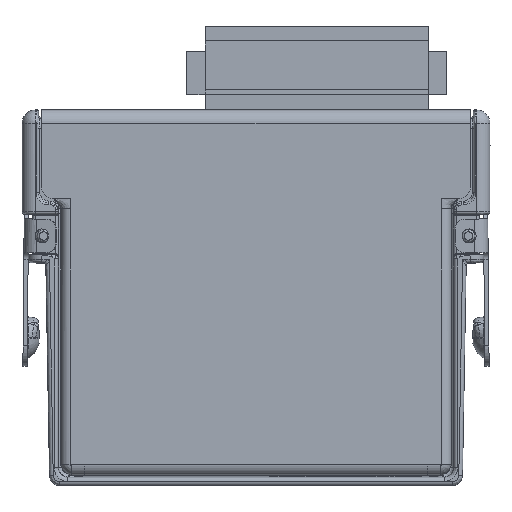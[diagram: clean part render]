
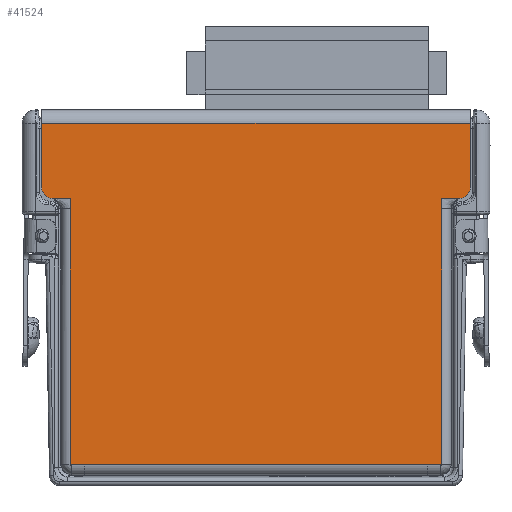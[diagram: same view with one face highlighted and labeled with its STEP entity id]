
A CAD part, left-side view. The second image highlights one B-rep face of the part: STEP entity #41524.
In plain terms, the highlighted planar face has unit normal (-1, 0, 0).
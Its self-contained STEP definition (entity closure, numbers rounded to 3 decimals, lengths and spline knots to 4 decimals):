
#40080=CARTESIAN_POINT('',(-0.4475,1.5095,2.209));
#40081=DIRECTION('',(-1.,0.,0.));
#40082=DIRECTION('',(0.,1.,0.));
#40083=AXIS2_PLACEMENT_3D('',#40080,#40081,#40082);
#40085=DIRECTION('',(0.,-1.,0.));
#40086=VECTOR('',#40085,0.133);
#40087=CARTESIAN_POINT('',(-0.4475,1.5095,2.129));
#40088=LINE('',#40087,#40086);
#40097=DIRECTION('',(0.,0.,-1.));
#40098=VECTOR('',#40097,0.476);
#40099=CARTESIAN_POINT('',(-0.4475,1.5895,2.685));
#40100=LINE('',#40099,#40098);
#40101=DIRECTION('',(0.,0.,1.));
#40102=VECTOR('',#40101,0.476);
#40103=CARTESIAN_POINT('',(-0.4475,-1.5895,2.209));
#40104=LINE('',#40103,#40102);
#40105=DIRECTION('',(0.,0.,1.));
#40106=VECTOR('',#40105,0.079);
#40107=CARTESIAN_POINT('',(-0.4475,-1.3765,2.05));
#40108=LINE('',#40107,#40106);
#40109=DIRECTION('',(0.,-1.,0.));
#40110=VECTOR('',#40109,0.105);
#40111=CARTESIAN_POINT('',(-0.4475,-1.2715,0.155));
#40112=LINE('',#40111,#40110);
#40113=DIRECTION('',(0.,-1.,0.));
#40114=VECTOR('',#40113,0.105);
#40115=CARTESIAN_POINT('',(-0.4475,1.3765,0.155));
#40116=LINE('',#40115,#40114);
#40117=DIRECTION('',(0.,0.,1.));
#40118=VECTOR('',#40117,0.079);
#40119=CARTESIAN_POINT('',(-0.4475,1.3765,2.05));
#40120=LINE('',#40119,#40118);
#40134=DIRECTION('',(0.,-1.,0.));
#40135=VECTOR('',#40134,3.179);
#40136=CARTESIAN_POINT('',(-0.4475,1.5895,2.685));
#40137=LINE('',#40136,#40135);
#40346=CARTESIAN_POINT('',(-0.4475,-1.5095,2.209));
#40347=DIRECTION('',(-1.,0.,0.));
#40348=DIRECTION('',(0.,0.,-1.));
#40349=AXIS2_PLACEMENT_3D('',#40346,#40347,#40348);
#40359=DIRECTION('',(0.,-1.,0.));
#40360=VECTOR('',#40359,0.133);
#40361=CARTESIAN_POINT('',(-0.4475,-1.3765,2.129));
#40362=LINE('',#40361,#40360);
#40371=DIRECTION('',(0.,0.,1.));
#40372=VECTOR('',#40371,1.895);
#40373=CARTESIAN_POINT('',(-0.4475,-1.3765,0.155));
#40374=LINE('',#40373,#40372);
#40430=DIRECTION('',(0.,-1.,0.));
#40431=VECTOR('',#40430,2.543);
#40432=CARTESIAN_POINT('',(-0.4475,1.2715,0.155));
#40433=LINE('',#40432,#40431);
#40706=DIRECTION('',(0.,0.,1.));
#40707=VECTOR('',#40706,1.895);
#40708=CARTESIAN_POINT('',(-0.4475,1.3765,0.155));
#40709=LINE('',#40708,#40707);
#40944=CARTESIAN_POINT('',(-0.4475,-1.5895,2.685));
#40945=VERTEX_POINT('',#40944);
#40946=CARTESIAN_POINT('',(-0.4475,1.5895,2.685));
#40947=VERTEX_POINT('',#40946);
#40976=CARTESIAN_POINT('',(-0.4475,1.2715,0.155));
#40977=CARTESIAN_POINT('',(-0.4475,-1.2715,0.155));
#40978=VERTEX_POINT('',#40976);
#40979=VERTEX_POINT('',#40977);
#40988=CARTESIAN_POINT('',(-0.4475,-1.3765,0.155));
#40989=VERTEX_POINT('',#40988);
#41000=CARTESIAN_POINT('',(-0.4475,1.3765,0.155));
#41001=VERTEX_POINT('',#41000);
#41057=CARTESIAN_POINT('',(-0.4475,1.5095,2.129));
#41059=VERTEX_POINT('',#41057);
#41062=CARTESIAN_POINT('',(-0.4475,1.5895,2.209));
#41063=VERTEX_POINT('',#41062);
#41065=CARTESIAN_POINT('',(-0.4475,-1.5895,2.209));
#41067=VERTEX_POINT('',#41065);
#41070=CARTESIAN_POINT('',(-0.4475,-1.5095,2.129));
#41071=VERTEX_POINT('',#41070);
#41092=CARTESIAN_POINT('',(-0.4475,-1.3765,2.05));
#41093=VERTEX_POINT('',#41092);
#41096=CARTESIAN_POINT('',(-0.4475,-1.3765,2.129));
#41097=VERTEX_POINT('',#41096);
#41104=CARTESIAN_POINT('',(-0.4475,1.3765,2.05));
#41105=CARTESIAN_POINT('',(-0.4475,1.3765,2.129));
#41106=VERTEX_POINT('',#41104);
#41107=VERTEX_POINT('',#41105);
#41491=CARTESIAN_POINT('',(-0.4475,0.,1.43));
#41492=DIRECTION('',(-1.,0.,0.));
#41493=DIRECTION('',(0.,1.,0.));
#41494=AXIS2_PLACEMENT_3D('',#41491,#41492,#41493);
#41495=PLANE('',#41494);
#41496=ORIENTED_EDGE('',*,*,#41472,.F.);
#41498=ORIENTED_EDGE('',*,*,#41497,.F.);
#41500=ORIENTED_EDGE('',*,*,#41499,.T.);
#41502=ORIENTED_EDGE('',*,*,#41501,.F.);
#41504=ORIENTED_EDGE('',*,*,#41503,.F.);
#41506=ORIENTED_EDGE('',*,*,#41505,.F.);
#41508=ORIENTED_EDGE('',*,*,#41507,.F.);
#41510=ORIENTED_EDGE('',*,*,#41509,.F.);
#41512=ORIENTED_EDGE('',*,*,#41511,.F.);
#41514=ORIENTED_EDGE('',*,*,#41513,.F.);
#41516=ORIENTED_EDGE('',*,*,#41515,.F.);
#41518=ORIENTED_EDGE('',*,*,#41517,.T.);
#41520=ORIENTED_EDGE('',*,*,#41519,.T.);
#41521=ORIENTED_EDGE('',*,*,#41483,.F.);
#41522=EDGE_LOOP('',(#41496,#41498,#41500,#41502,#41504,#41506,#41508,#41510,
#41512,#41514,#41516,#41518,#41520,#41521));
#41523=FACE_OUTER_BOUND('',#41522,.F.);
#41524=ADVANCED_FACE('',(#41523),#41495,.T.);
#40084=CIRCLE('',#40083,0.08);
#40350=CIRCLE('',#40349,0.08);
#41472=EDGE_CURVE('',#41063,#41059,#40084,.T.);
#41483=EDGE_CURVE('',#41059,#41107,#40088,.T.);
#41497=EDGE_CURVE('',#40947,#41063,#40100,.T.);
#41499=EDGE_CURVE('',#40947,#40945,#40137,.T.);
#41501=EDGE_CURVE('',#41067,#40945,#40104,.T.);
#41503=EDGE_CURVE('',#41071,#41067,#40350,.T.);
#41505=EDGE_CURVE('',#41097,#41071,#40362,.T.);
#41507=EDGE_CURVE('',#41093,#41097,#40108,.T.);
#41509=EDGE_CURVE('',#40989,#41093,#40374,.T.);
#41511=EDGE_CURVE('',#40979,#40989,#40112,.T.);
#41513=EDGE_CURVE('',#40978,#40979,#40433,.T.);
#41515=EDGE_CURVE('',#41001,#40978,#40116,.T.);
#41517=EDGE_CURVE('',#41001,#41106,#40709,.T.);
#41519=EDGE_CURVE('',#41106,#41107,#40120,.T.);
